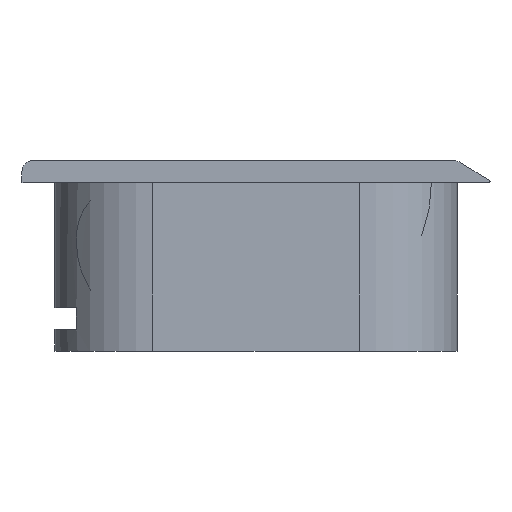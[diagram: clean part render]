
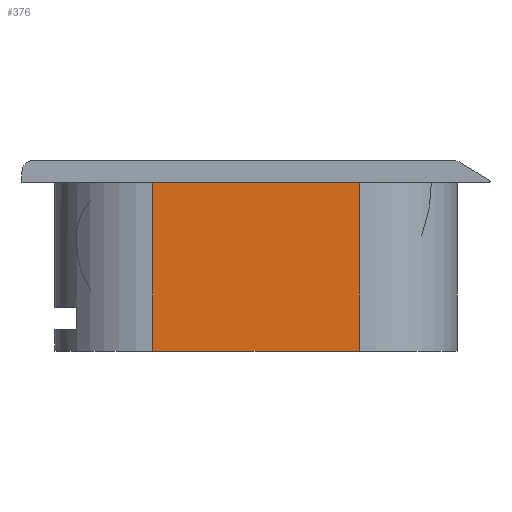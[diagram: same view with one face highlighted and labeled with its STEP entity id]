
A CAD part, left-side view. The second image highlights one B-rep face of the part: STEP entity #376.
In plain terms, the highlighted planar face has unit normal (-1, 0, 0).
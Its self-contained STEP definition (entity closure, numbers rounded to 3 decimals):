
#306 = EDGE_CURVE( '', #480, #466, #845, .T. );
#376 = ADVANCED_FACE( '', ( #917 ), #918, .F. );
#400 = EDGE_CURVE( '', #748, #466, #944, .T. );
#406 = EDGE_CURVE( '', #748, #704, #950, .T. );
#466 = VERTEX_POINT( '', #1016 );
#480 = VERTEX_POINT( '', #1030 );
#692 = EDGE_CURVE( '', #704, #480, #1265, .T. );
#704 = VERTEX_POINT( '', #1280 );
#748 = VERTEX_POINT( '', #1328 );
#845 = LINE( '', #1429, #1430 );
#917 = FACE_OUTER_BOUND( '', #1544, .T. );
#918 = PLANE( '', #1545 );
#944 = LINE( '', #1580, #1581 );
#950 = LINE( '', #1590, #1591 );
#1016 = CARTESIAN_POINT( '', ( -24., 4., 15.5 ) );
#1030 = CARTESIAN_POINT( '', ( -24., 23., 15.5 ) );
#1265 = LINE( '', #2006, #2007 );
#1280 = CARTESIAN_POINT( '', ( -24., 23., 0. ) );
#1328 = CARTESIAN_POINT( '', ( -24., 4., 0. ) );
#1429 = CARTESIAN_POINT( '', ( -24., -3.95, 15.5 ) );
#1430 = VECTOR( '', #2213, 1. );
#1544 = EDGE_LOOP( '', ( #2272, #2273, #2274, #2275 ) );
#1545 = AXIS2_PLACEMENT_3D( '', #2276, #2277, #2278 );
#1580 = CARTESIAN_POINT( '', ( -24., 4., 7.75 ) );
#1581 = VECTOR( '', #2308, 1. );
#1590 = CARTESIAN_POINT( '', ( -24., -5., 0. ) );
#1591 = VECTOR( '', #2310, 1. );
#2006 = CARTESIAN_POINT( '', ( -24., 23., 7.75 ) );
#2007 = VECTOR( '', #2681, 1. );
#2213 = DIRECTION( '', ( 0., -1., 0. ) );
#2272 = ORIENTED_EDGE( '', *, *, #692, .F. );
#2273 = ORIENTED_EDGE( '', *, *, #406, .F. );
#2274 = ORIENTED_EDGE( '', *, *, #400, .T. );
#2275 = ORIENTED_EDGE( '', *, *, #306, .F. );
#2276 = CARTESIAN_POINT( '', ( -24., 0., 0. ) );
#2277 = DIRECTION( '', ( 1., 0., 0. ) );
#2278 = DIRECTION( '', ( 0., 0., -1. ) );
#2308 = DIRECTION( '', ( 0., 0., 1. ) );
#2310 = DIRECTION( '', ( 0., 1., 0. ) );
#2681 = DIRECTION( '', ( 0., 0., 1. ) );
